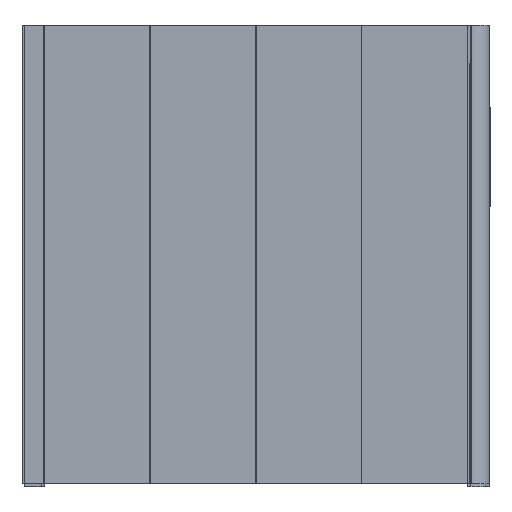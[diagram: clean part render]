
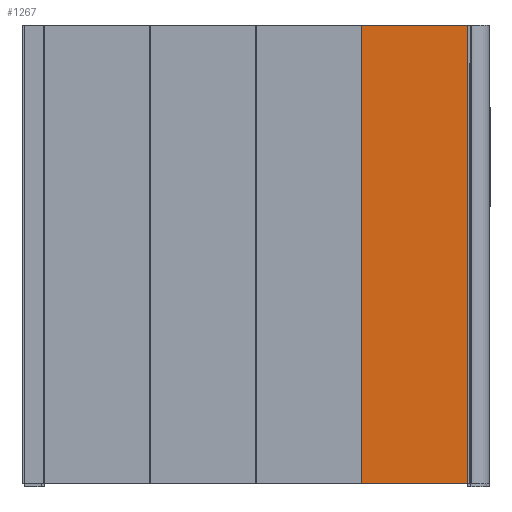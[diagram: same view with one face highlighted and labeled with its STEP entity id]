
A CAD part, left-side view. The second image highlights one B-rep face of the part: STEP entity #1267.
In plain terms, the highlighted planar face has unit normal (-1, 0, 0) as drawn and (1, 0, 0) by its records, which use the part's own axes.
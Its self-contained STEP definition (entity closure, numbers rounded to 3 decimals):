
#1267=ADVANCED_FACE('',(#1819),#8496,.T.);
#1819=FACE_OUTER_BOUND('',#2381,.T.);
#2381=EDGE_LOOP('',(#4727,#4728,#4729,#4730));
#4727=ORIENTED_EDGE('',*,*,#6008,.T.);
#4728=ORIENTED_EDGE('',*,*,#6009,.T.);
#4729=ORIENTED_EDGE('',*,*,#6010,.F.);
#4730=ORIENTED_EDGE('',*,*,#6006,.F.);
#6006=EDGE_CURVE('',#7968,#7969,#7113,.T.);
#6008=EDGE_CURVE('',#7968,#7970,#7115,.T.);
#6009=EDGE_CURVE('',#7970,#7971,#7116,.T.);
#6010=EDGE_CURVE('',#7969,#7971,#7117,.T.);
#7113=B_SPLINE_CURVE_WITH_KNOTS('',1,(#15561,#15562),.UNSPECIFIED.,.F.,
 .F.,(2,2),(0.,2600.),.UNSPECIFIED.);
#7115=B_SPLINE_CURVE_WITH_KNOTS('',1,(#15565,#15566),.UNSPECIFIED.,.F.,
 .F.,(2,2),(608.,1204.),.UNSPECIFIED.);
#7116=B_SPLINE_CURVE_WITH_KNOTS('',1,(#15567,#15568),.UNSPECIFIED.,.F.,
 .F.,(2,2),(0.,2600.),.UNSPECIFIED.);
#7117=B_SPLINE_CURVE_WITH_KNOTS('',1,(#15569,#15570),.UNSPECIFIED.,.F.,
 .F.,(2,2),(608.,1204.),.UNSPECIFIED.);
#7968=VERTEX_POINT('',#15547);
#7969=VERTEX_POINT('',#15548);
#7970=VERTEX_POINT('',#15549);
#7971=VERTEX_POINT('',#15550);
#8496=PLANE('',#10652);
#10652=AXIS2_PLACEMENT_3D('',#15539,#11519,$);
#11519=DIRECTION('',(1.,0.,0.));
#15539=CARTESIAN_POINT('',(-242.,130.,18.));
#15547=CARTESIAN_POINT('',(-242.,130.,18.));
#15548=CARTESIAN_POINT('',(-242.,130.,2618.));
#15549=CARTESIAN_POINT('',(-242.,726.,18.));
#15550=CARTESIAN_POINT('',(-242.,726.,2618.));
#15561=CARTESIAN_POINT('',(-242.,130.,18.));
#15562=CARTESIAN_POINT('',(-242.,130.,2618.));
#15565=CARTESIAN_POINT('',(-242.,130.,18.));
#15566=CARTESIAN_POINT('',(-242.,726.,18.));
#15567=CARTESIAN_POINT('',(-242.,726.,18.));
#15568=CARTESIAN_POINT('',(-242.,726.,2618.));
#15569=CARTESIAN_POINT('',(-242.,130.,2618.));
#15570=CARTESIAN_POINT('',(-242.,726.,2618.));
